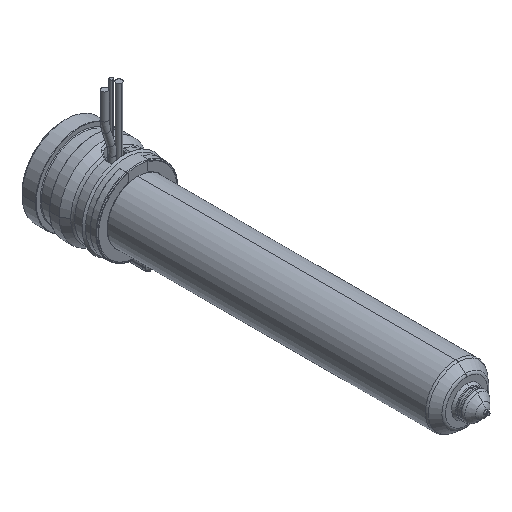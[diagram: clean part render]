
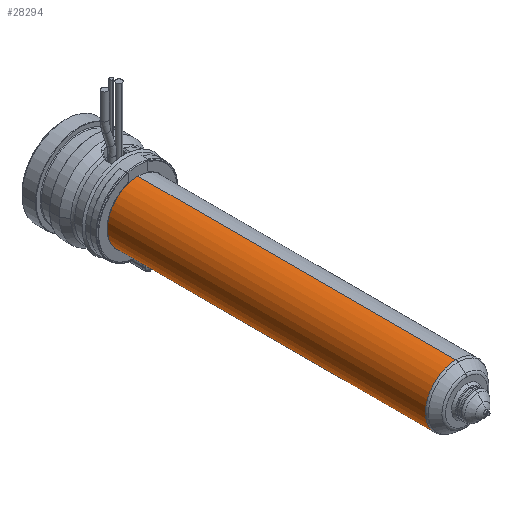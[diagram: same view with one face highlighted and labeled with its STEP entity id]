
A CAD part, isometric view. The second image highlights one B-rep face of the part: STEP entity #28294.
In plain terms, the highlighted cylindrical face has radius 9 mm (diameter 18 mm), a partial arc.
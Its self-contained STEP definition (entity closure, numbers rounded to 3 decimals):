
#27683=CARTESIAN_POINT('',(0.,-115.836,0.));
#27684=DIRECTION('',(0.,-1.,0.));
#27685=DIRECTION('',(0.,0.,1.));
#27686=AXIS2_PLACEMENT_3D('',#27683,#27684,#27685);
#27691=CARTESIAN_POINT('',(0.,-22.,0.));
#27692=DIRECTION('',(0.,-1.,0.));
#27693=DIRECTION('',(0.,0.,1.));
#27694=AXIS2_PLACEMENT_3D('',#27691,#27692,#27693);
#27699=DIRECTION('',(0.,-1.,0.));
#27700=VECTOR('',#27699,93.836);
#27701=CARTESIAN_POINT('',(0.,-22.,9.));
#27702=LINE('',#27701,#27700);
#27714=DIRECTION('',(0.,-1.,0.));
#27715=VECTOR('',#27714,93.836);
#27716=CARTESIAN_POINT('',(0.,-22.,-9.));
#27717=LINE('',#27716,#27715);
#27911=CARTESIAN_POINT('',(0.,-22.,9.));
#27912=CARTESIAN_POINT('',(0.,-115.836,9.));
#27913=VERTEX_POINT('',#27911);
#27914=VERTEX_POINT('',#27912);
#27937=CARTESIAN_POINT('',(0.,-22.,-9.));
#27938=CARTESIAN_POINT('',(0.,-115.836,-9.));
#27939=VERTEX_POINT('',#27937);
#27940=VERTEX_POINT('',#27938);
#28280=CARTESIAN_POINT('',(0.,-12.625,0.));
#28281=DIRECTION('',(0.,-1.,0.));
#28282=DIRECTION('',(0.,0.,1.));
#28283=AXIS2_PLACEMENT_3D('',#28280,#28281,#28282);
#28284=CYLINDRICAL_SURFACE('',#28283,9.);
#28286=ORIENTED_EDGE('',*,*,#28285,.T.);
#28287=ORIENTED_EDGE('',*,*,#28275,.T.);
#28289=ORIENTED_EDGE('',*,*,#28288,.F.);
#28291=ORIENTED_EDGE('',*,*,#28290,.F.);
#28292=EDGE_LOOP('',(#28286,#28287,#28289,#28291));
#28293=FACE_OUTER_BOUND('',#28292,.F.);
#28294=ADVANCED_FACE('',(#28293),#28284,.T.);
#27687=CIRCLE('',#27686,9.);
#27695=CIRCLE('',#27694,9.);
#28275=EDGE_CURVE('',#27914,#27940,#27687,.T.);
#28285=EDGE_CURVE('',#27913,#27914,#27702,.T.);
#28288=EDGE_CURVE('',#27939,#27940,#27717,.T.);
#28290=EDGE_CURVE('',#27913,#27939,#27695,.T.);
